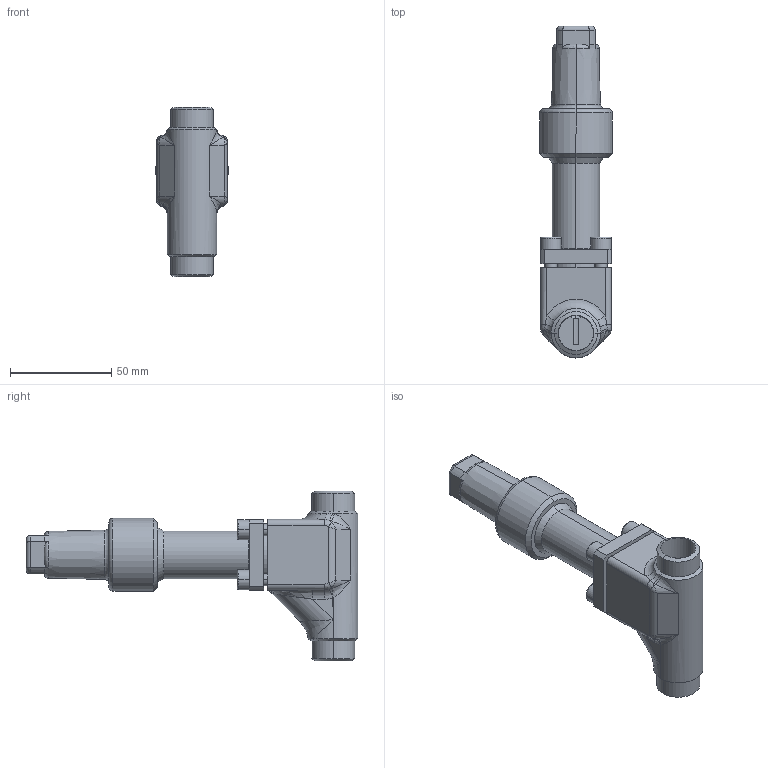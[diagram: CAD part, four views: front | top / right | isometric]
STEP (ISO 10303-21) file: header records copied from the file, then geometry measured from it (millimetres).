
FILE_DESCRIPTION (( 'STEP AP214' ), '1' );
FILE_NAME ('RVA99300-DN015_R1_PS40.STEP', '2006-05-02T09:39:48', ( 'Herr Grams' ), ( 'AWP GmbH' ), 'SwSTEP 2.0', 'SolidWorks 2002296', '' );
FILE_SCHEMA (( 'AUTOMOTIVE_DESIGN' ));
Length unit declared in the file: millimetre
Products named in the file (6): RVA99300-DN015_R1_PS40; Gehäuse96300E10-DN15_PS40_R1_Standard; RVA99300E10_Deck+Schr-DN6-15_Standard; Deckel99300E10-DN6-15_PS40_Standard; Zylinderschraube-DIN912_M 6x 18; Kappe96300E10_DN6-20_Standard
Assembly tree (8 placements, depth 3):
  RVA99300-DN015_R1_PS40
    RVA99300E10_Deck+Schr-DN6-15_Standard
      Zylinderschraube-DIN912_M 6x 18  x4
      Deckel99300E10-DN6-15_PS40_Standard
    Gehäuse96300E10-DN15_PS40_R1_Standard
    Kappe96300E10_DN6-20_Standard
Bounding box: 36 x 164.2 x 84 mm (x, y, z)
Volume: 114240.1 mm3; surface area: 38026.9 mm2
Topology: 7 solids, 7 shells, 260 faces, 601 edges, 365 vertices
Faces by surface type: cylinder 91, plane 87, cone 29, bspline 29, torus 24
Entity records: 18102 total; most frequent: CARTESIAN_POINT 12900, ORIENTED_EDGE 958, DIRECTION 944, EDGE_CURVE 479, AXIS2_PLACEMENT_3D 392, VERTEX_POINT 293, EDGE_LOOP 230, ADVANCED_FACE 206
